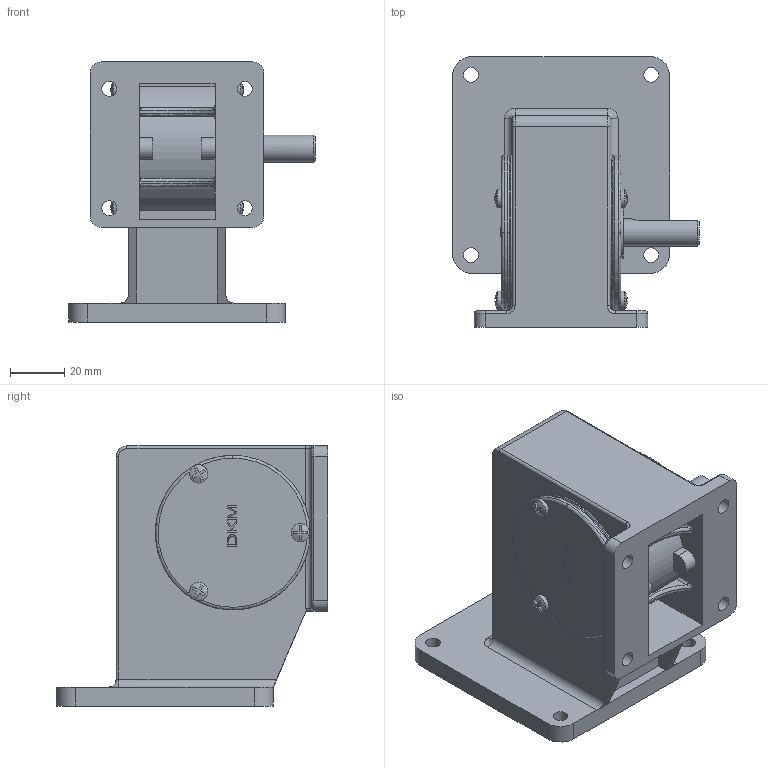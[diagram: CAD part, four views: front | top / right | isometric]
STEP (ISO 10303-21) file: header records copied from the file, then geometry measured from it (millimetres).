
FILE_DESCRIPTION (( 'STEP AP203' ), '1' );
FILE_NAME ('8WD¡àBL.STEP', '2022-10-28T00:39:00', ( '' ), ( '' ), 'SwSTEP 2.0', 'SolidWorks 2018', '' );
FILE_SCHEMA (( 'CONFIG_CONTROL_DESIGN' ));
Length unit declared in the file: millimetre
Products named in the file (1): 8WD｡滷L
Bounding box: 91 x 100 x 96 mm (x, y, z)
Volume: 228938.5 mm3; surface area: 52406.1 mm2
Topology: 1 solids, 1 shells, 311 faces, 821 edges, 528 vertices
Faces by surface type: plane 179, cylinder 77, bspline 52, torus 2, cone 1
Full cylindrical faces by diameter (mm): 5.5 x8, 6.7 x6, 9.7 x1, 10 x1, 19 x1, 57 x2
Entity records: 12635 total; most frequent: CARTESIAN_POINT 5454, ORIENTED_EDGE 1574, DIRECTION 1296, EDGE_CURVE 787, VERTEX_POINT 515, VECTOR 444, LINE 444, AXIS2_PLACEMENT_3D 426
